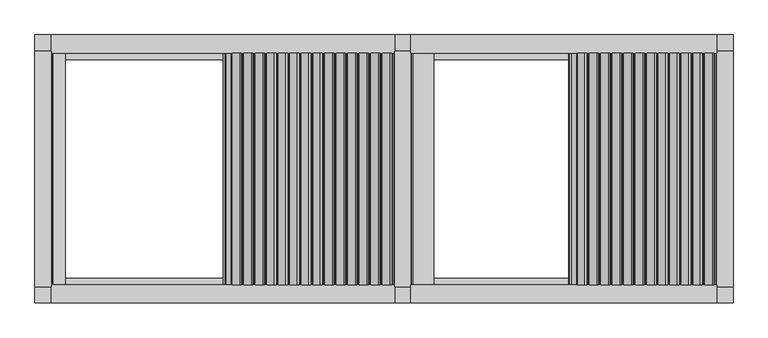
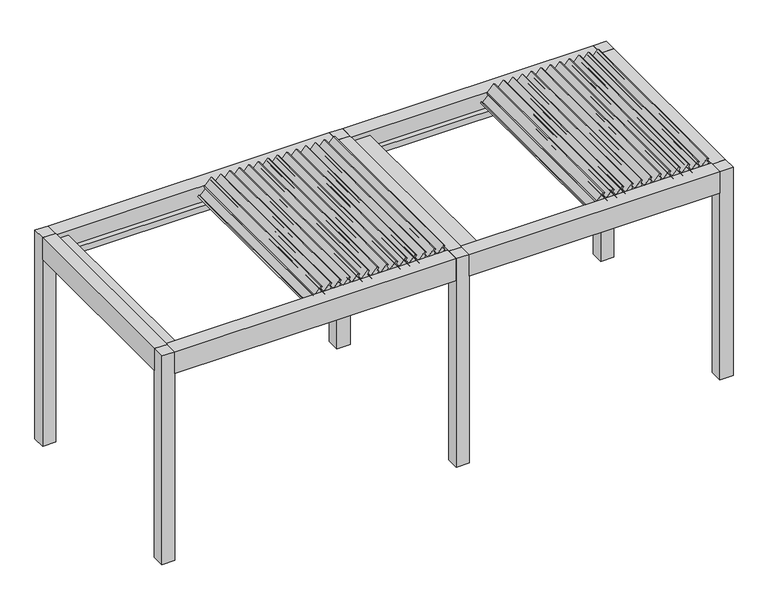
"""IFC4 building model written with IfcOpenShell, lengths in millimetres: proxy geometry, Renson_Camargue_Skye_Freestanding_Patio covers : Renson_Camargue_Skye_Freestanding_Patio covers."""

from ifc_helpers import new_model, si_unit, point, frame, frame_2d, origin, origin_with_axes, place, context, project, spatial, polyline, circle_curve, trimmed, segment, composite_curve, outline, extrude, source, transform, mapped, element, save


def generic_models_a6fa8a10(model_context):
    return source(origin(), model_context, "Body", "SweptSolid", [
        extrude(outline(composite_curve([segment(polyline([(2532.0835122, 4460.9227633), (2553.3547618, 4443.0740656), (2574.7237457, 4462.484284), (2586.077577, 4446.2693325), (2504.561844, 4372.2256538)]), True, "CONTINUOUS"), segment(trimmed(circle_curve(frame_2d((2494.4763419, 4383.3289257)), 15.0), [point((2504.561844, 4372.2256538))], [point((2485.8726953, 4371.0416451))], False, "CARTESIAN"), True, "CONTINUOUS"), segment(polyline([(2485.8726953, 4371.0416451), (2469.8777579, 4382.2414209), (2407.8391957, 4320.2028587), (2417.7863257, 4305.9968847), (2406.4649975, 4295.7133141), (2384.9376513, 4313.7769023), (2532.0835122, 4460.9227633)]), True, "CONTINUOUS")], self_intersect=False)), frame((0.0, -1080.0, 0.0), z_axis=(0.0, 1.0, 0.0), x_axis=(0.0, 0.0, 1.0)), (0.0, 0.0, 1.0), 2160.0),
        extrude(outline(composite_curve([segment(polyline([(2532.0835122, 4353.4070472), (2553.3547618, 4335.5583495), (2574.7237457, 4354.9685679), (2586.077577, 4338.7536164), (2504.561844, 4264.7099378)]), True, "CONTINUOUS"), segment(trimmed(circle_curve(frame_2d((2494.4763419, 4275.8132097)), 15.0), [point((2504.561844, 4264.7099378))], [point((2485.8726953, 4263.525929))], False, "CARTESIAN"), True, "CONTINUOUS"), segment(polyline([(2485.8726953, 4263.525929), (2469.8777579, 4274.7257048), (2407.8391957, 4212.6871426), (2417.7863257, 4198.4811686), (2406.4649975, 4188.1975981), (2384.9376513, 4206.2611863), (2532.0835122, 4353.4070472)]), True, "CONTINUOUS")], self_intersect=False)), frame((0.0, -1080.0, 0.0), z_axis=(0.0, 1.0, 0.0), x_axis=(0.0, 0.0, 1.0)), (0.0, 0.0, 1.0), 2160.0),
        extrude(outline(composite_curve([segment(polyline([(2532.0835122, 4245.8913312), (2553.3547618, 4228.0426335), (2574.7237457, 4247.4528519), (2586.077577, 4231.2379004), (2504.561844, 4157.1942217)]), True, "CONTINUOUS"), segment(trimmed(circle_curve(frame_2d((2494.4763419, 4168.2974936)), 15.0), [point((2504.561844, 4157.1942217))], [point((2485.8726953, 4156.010213))], False, "CARTESIAN"), True, "CONTINUOUS"), segment(polyline([(2485.8726953, 4156.010213), (2469.8777579, 4167.2099888), (2407.8391957, 4105.1714266), (2417.7863257, 4090.9654526), (2406.4649975, 4080.681882), (2384.9376513, 4098.7454702), (2532.0835122, 4245.8913312)]), True, "CONTINUOUS")], self_intersect=False)), frame((0.0, -1080.0, 0.0), z_axis=(0.0, 1.0, 0.0), x_axis=(0.0, 0.0, 1.0)), (0.0, 0.0, 1.0), 2160.0),
        extrude(outline(composite_curve([segment(polyline([(2532.0835122, 4138.3756151), (2553.3547618, 4120.5269175), (2574.7237457, 4139.9371358), (2586.077577, 4123.7221843), (2504.561844, 4049.6785057)]), True, "CONTINUOUS"), segment(trimmed(circle_curve(frame_2d((2494.4763419, 4060.7817776)), 15.0), [point((2504.561844, 4049.6785057))], [point((2485.8726953, 4048.4944969))], False, "CARTESIAN"), True, "CONTINUOUS"), segment(polyline([(2485.8726953, 4048.4944969), (2469.8777579, 4059.6942727), (2407.8391957, 3997.6557105), (2417.7863257, 3983.4497365), (2406.4649975, 3973.166166), (2384.9376513, 3991.2297542), (2532.0835122, 4138.3756151)]), True, "CONTINUOUS")], self_intersect=False)), frame((0.0, -1080.0, 0.0), z_axis=(0.0, 1.0, 0.0), x_axis=(0.0, 0.0, 1.0)), (0.0, 0.0, 1.0), 2160.0),
        extrude(outline(composite_curve([segment(polyline([(2532.0835122, 4030.8598991), (2553.3547618, 4013.0112014), (2574.7237457, 4032.4214198), (2586.077577, 4016.2064683), (2504.561844, 3942.1627896)]), True, "CONTINUOUS"), segment(trimmed(circle_curve(frame_2d((2494.4763419, 3953.2660616)), 15.0), [point((2504.561844, 3942.1627896))], [point((2485.8726953, 3940.9787809))], False, "CARTESIAN"), True, "CONTINUOUS"), segment(polyline([(2485.8726953, 3940.9787809), (2469.8777579, 3952.1785567), (2407.8391957, 3890.1399945), (2417.7863257, 3875.9340205), (2406.4649975, 3865.6504499), (2384.9376513, 3883.7140382), (2532.0835122, 4030.8598991)]), True, "CONTINUOUS")], self_intersect=False)), frame((0.0, -1080.0, 0.0), z_axis=(0.0, 1.0, 0.0), x_axis=(0.0, 0.0, 1.0)), (0.0, 0.0, 1.0), 2160.0),
        extrude(outline(composite_curve([segment(polyline([(2532.0835122, 3923.344183), (2553.3547618, 3905.4954854), (2574.7237457, 3924.9057037), (2586.077577, 3908.6907522), (2504.561844, 3834.6470736)]), True, "CONTINUOUS"), segment(trimmed(circle_curve(frame_2d((2494.4763419, 3845.7503455)), 15.0), [point((2504.561844, 3834.6470736))], [point((2485.8726953, 3833.4630648))], False, "CARTESIAN"), True, "CONTINUOUS"), segment(polyline([(2485.8726953, 3833.4630648), (2469.8777579, 3844.6628406), (2407.8391957, 3782.6242784), (2417.7863257, 3768.4183045), (2406.4649975, 3758.1347339), (2384.9376513, 3776.1983221), (2532.0835122, 3923.344183)]), True, "CONTINUOUS")], self_intersect=False)), frame((0.0, -1080.0, 0.0), z_axis=(0.0, 1.0, 0.0), x_axis=(0.0, 0.0, 1.0)), (0.0, 0.0, 1.0), 2160.0),
        extrude(outline(composite_curve([segment(polyline([(2532.0835122, 3815.828467), (2553.3547618, 3797.9797693), (2574.7237457, 3817.3899877), (2586.077577, 3801.1750362), (2504.561844, 3727.1313575)]), True, "CONTINUOUS"), segment(trimmed(circle_curve(frame_2d((2494.4763419, 3738.2346295)), 15.0), [point((2504.561844, 3727.1313575))], [point((2485.8726953, 3725.9473488))], False, "CARTESIAN"), True, "CONTINUOUS"), segment(polyline([(2485.8726953, 3725.9473488), (2469.8777579, 3737.1471246), (2407.8391957, 3675.1085624), (2417.7863257, 3660.9025884), (2406.4649975, 3650.6190178), (2384.9376513, 3668.6826061), (2532.0835122, 3815.828467)]), True, "CONTINUOUS")], self_intersect=False)), frame((0.0, -1080.0, 0.0), z_axis=(0.0, 1.0, 0.0), x_axis=(0.0, 0.0, 1.0)), (0.0, 0.0, 1.0), 2160.0),
        extrude(outline(composite_curve([segment(polyline([(2532.0835122, 3708.3127509), (2553.3547618, 3690.4640533), (2574.7237457, 3709.8742716), (2586.077577, 3693.6593201), (2504.561844, 3619.6156415)]), True, "CONTINUOUS"), segment(trimmed(circle_curve(frame_2d((2494.4763419, 3630.7189134)), 15.0), [point((2504.561844, 3619.6156415))], [point((2485.8726953, 3618.4316327))], False, "CARTESIAN"), True, "CONTINUOUS"), segment(polyline([(2485.8726953, 3618.4316327), (2469.8777579, 3629.6314085), (2407.8391957, 3567.5928464), (2417.7863257, 3553.3868724), (2406.4649975, 3543.1033018), (2384.9376513, 3561.16689), (2532.0835122, 3708.3127509)]), True, "CONTINUOUS")], self_intersect=False)), frame((0.0, -1080.0, 0.0), z_axis=(0.0, 1.0, 0.0), x_axis=(0.0, 0.0, 1.0)), (0.0, 0.0, 1.0), 2160.0),
        extrude(outline(composite_curve([segment(polyline([(2532.0835122, 3600.7970349), (2553.3547618, 3582.9483372), (2574.7237457, 3602.3585556), (2586.077577, 3586.1436041), (2504.561844, 3512.0999255)]), True, "CONTINUOUS"), segment(trimmed(circle_curve(frame_2d((2494.4763419, 3523.2031974)), 15.0), [point((2504.561844, 3512.0999255))], [point((2485.8726953, 3510.9159167))], False, "CARTESIAN"), True, "CONTINUOUS"), segment(polyline([(2485.8726953, 3510.9159167), (2469.8777579, 3522.1156925), (2407.8391957, 3460.0771303), (2417.7863257, 3445.8711563), (2406.4649975, 3435.5875858), (2384.9376513, 3453.651174), (2532.0835122, 3600.7970349)]), True, "CONTINUOUS")], self_intersect=False)), frame((0.0, -1080.0, 0.0), z_axis=(0.0, 1.0, 0.0), x_axis=(0.0, 0.0, 1.0)), (0.0, 0.0, 1.0), 2160.0),
        extrude(outline(composite_curve([segment(polyline([(2532.0835122, 3493.2813188), (2553.3547618, 3475.4326212), (2574.7237457, 3494.8428395), (2586.077577, 3478.627888), (2504.561844, 3404.5842094)]), True, "CONTINUOUS"), segment(trimmed(circle_curve(frame_2d((2494.4763419, 3415.6874813)), 15.0), [point((2504.561844, 3404.5842094))], [point((2485.8726953, 3403.4002007))], False, "CARTESIAN"), True, "CONTINUOUS"), segment(polyline([(2485.8726953, 3403.4002007), (2469.8777579, 3414.5999764), (2407.8391957, 3352.5614143), (2417.7863257, 3338.3554403), (2406.4649975, 3328.0718697), (2384.9376513, 3346.1354579), (2532.0835122, 3493.2813188)]), True, "CONTINUOUS")], self_intersect=False)), frame((0.0, -1080.0, 0.0), z_axis=(0.0, 1.0, 0.0), x_axis=(0.0, 0.0, 1.0)), (0.0, 0.0, 1.0), 2160.0),
        extrude(outline(composite_curve([segment(polyline([(2532.0835122, 4568.4384793), (2553.3547618, 4550.5897816), (2574.7237457, 4570.0), (2586.077577, 4553.7850485), (2504.561844, 4479.7413699)]), True, "CONTINUOUS"), segment(trimmed(circle_curve(frame_2d((2494.4763419, 4490.8446418)), 15.0), [point((2504.561844, 4479.7413699))], [point((2485.8726953, 4478.5573611))], False, "CARTESIAN"), True, "CONTINUOUS"), segment(polyline([(2485.8726953, 4478.5573611), (2469.8777579, 4489.7571369), (2407.8391957, 4427.7185747), (2417.7863257, 4413.5126007), (2406.4649975, 4403.2290302), (2384.9376513, 4421.2926184), (2532.0835122, 4568.4384793)]), True, "CONTINUOUS")], self_intersect=False)), frame((0.0, -1080.0, 0.0), z_axis=(0.0, 1.0, 0.0), x_axis=(0.0, 0.0, 1.0)), (0.0, 0.0, 1.0), 2160.0),
        extrude(outline(composite_curve([segment(polyline([(2532.0835122, 3385.7656028), (2553.3547618, 3367.9169051), (2574.7237457, 3387.3271235), (2586.077577, 3371.112172), (2504.561844, 3297.0684934)]), True, "CONTINUOUS"), segment(trimmed(circle_curve(frame_2d((2494.4763419, 3308.1717653)), 15.0), [point((2504.561844, 3297.0684934))], [point((2485.8726953, 3295.8844846))], False, "CARTESIAN"), True, "CONTINUOUS"), segment(polyline([(2485.8726953, 3295.8844846), (2469.8777579, 3307.0842604), (2407.8391957, 3245.0456982), (2417.7863257, 3230.8397242), (2406.4649975, 3220.5561537), (2384.9376513, 3238.6197419), (2532.0835122, 3385.7656028)]), True, "CONTINUOUS")], self_intersect=False)), frame((0.0, -1080.0, 0.0), z_axis=(0.0, 1.0, 0.0), x_axis=(0.0, 0.0, 1.0)), (0.0, 0.0, 1.0), 2160.0),
        extrude(outline(composite_curve([segment(polyline([(2532.0835122, 1460.9251811), (2553.3547618, 1443.0764834), (2574.7237457, 1462.4867018), (2586.077577, 1446.2717503), (2504.561844, 1372.2280717)]), True, "CONTINUOUS"), segment(trimmed(circle_curve(frame_2d((2494.4763419, 1383.3313436)), 15.0), [point((2504.561844, 1372.2280717))], [point((2485.8726953, 1371.0440629))], False, "CARTESIAN"), True, "CONTINUOUS"), segment(polyline([(2485.8726953, 1371.0440629), (2469.8777579, 1382.2438387), (2407.8391957, 1320.2052765), (2417.7863257, 1305.9993025), (2406.4649975, 1295.715732), (2384.9376513, 1313.7793202), (2532.0835122, 1460.9251811)]), True, "CONTINUOUS")], self_intersect=False)), frame((0.0, -1080.0, 0.0), z_axis=(0.0, 1.0, 0.0), x_axis=(0.0, 0.0, 1.0)), (0.0, 0.0, 1.0), 2160.0),
        extrude(outline(composite_curve([segment(polyline([(2532.0835122, 1353.4118829), (2553.3547618, 1335.5631853), (2574.7237457, 1354.9734036), (2586.077577, 1338.7584521), (2504.561844, 1264.7147735)]), True, "CONTINUOUS"), segment(trimmed(circle_curve(frame_2d((2494.4763419, 1275.8180454)), 15.0), [point((2504.561844, 1264.7147735))], [point((2485.8726953, 1263.5307647))], False, "CARTESIAN"), True, "CONTINUOUS"), segment(polyline([(2485.8726953, 1263.5307647), (2469.8777579, 1274.7305405), (2407.8391957, 1212.6919783), (2417.7863257, 1198.4860043), (2406.4649975, 1188.2024338), (2384.9376513, 1206.266022), (2532.0835122, 1353.4118829)]), True, "CONTINUOUS")], self_intersect=False)), frame((0.0, -1080.0, 0.0), z_axis=(0.0, 1.0, 0.0), x_axis=(0.0, 0.0, 1.0)), (0.0, 0.0, 1.0), 2160.0),
        extrude(outline(composite_curve([segment(polyline([(2532.0835122, 1245.8985847), (2553.3547618, 1228.0498871), (2574.7237457, 1247.4601054), (2586.077577, 1231.2451539), (2504.561844, 1157.2014753)]), True, "CONTINUOUS"), segment(trimmed(circle_curve(frame_2d((2494.4763419, 1168.3047472)), 15.0), [point((2504.561844, 1157.2014753))], [point((2485.8726953, 1156.0174665))], False, "CARTESIAN"), True, "CONTINUOUS"), segment(polyline([(2485.8726953, 1156.0174665), (2469.8777579, 1167.2172423), (2407.8391957, 1105.1786801), (2417.7863257, 1090.9727062), (2406.4649975, 1080.6891356), (2384.9376513, 1098.7527238), (2532.0835122, 1245.8985847)]), True, "CONTINUOUS")], self_intersect=False)), frame((0.0, -1080.0, 0.0), z_axis=(0.0, 1.0, 0.0), x_axis=(0.0, 0.0, 1.0)), (0.0, 0.0, 1.0), 2160.0),
        extrude(outline(composite_curve([segment(polyline([(2532.0835122, 1138.3852865), (2553.3547618, 1120.5365889), (2574.7237457, 1139.9468072), (2586.077577, 1123.7318557), (2504.561844, 1049.6881771)]), True, "CONTINUOUS"), segment(trimmed(circle_curve(frame_2d((2494.4763419, 1060.791449)), 15.0), [point((2504.561844, 1049.6881771))], [point((2485.8726953, 1048.5041683))], False, "CARTESIAN"), True, "CONTINUOUS"), segment(polyline([(2485.8726953, 1048.5041683), (2469.8777579, 1059.7039441), (2407.8391957, 997.665382), (2417.7863257, 983.459408), (2406.4649975, 973.1758374), (2384.9376513, 991.2394256), (2532.0835122, 1138.3852865)]), True, "CONTINUOUS")], self_intersect=False)), frame((0.0, -1080.0, 0.0), z_axis=(0.0, 1.0, 0.0), x_axis=(0.0, 0.0, 1.0)), (0.0, 0.0, 1.0), 2160.0),
        extrude(outline(composite_curve([segment(polyline([(2532.0835122, 1030.8719883), (2553.3547618, 1013.0232907), (2574.7237457, 1032.433509), (2586.077577, 1016.2185575), (2504.561844, 942.1748789)]), True, "CONTINUOUS"), segment(trimmed(circle_curve(frame_2d((2494.4763419, 953.2781508)), 15.0), [point((2504.561844, 942.1748789))], [point((2485.8726953, 940.9908702))], False, "CARTESIAN"), True, "CONTINUOUS"), segment(polyline([(2485.8726953, 940.9908702), (2469.8777579, 952.1906459), (2407.8391957, 890.1520838), (2417.7863257, 875.9461098), (2406.4649975, 865.6625392), (2384.9376513, 883.7261274), (2532.0835122, 1030.8719883)]), True, "CONTINUOUS")], self_intersect=False)), frame((0.0, -1080.0, 0.0), z_axis=(0.0, 1.0, 0.0), x_axis=(0.0, 0.0, 1.0)), (0.0, 0.0, 1.0), 2160.0),
        extrude(outline(composite_curve([segment(polyline([(2532.0835122, 923.3586901), (2553.3547618, 905.5099925), (2574.7237457, 924.9202108), (2586.077577, 908.7052594), (2504.561844, 834.6615807)]), True, "CONTINUOUS"), segment(trimmed(circle_curve(frame_2d((2494.4763419, 845.7648526)), 15.0), [point((2504.561844, 834.6615807))], [point((2485.8726953, 833.477572))], False, "CARTESIAN"), True, "CONTINUOUS"), segment(polyline([(2485.8726953, 833.477572), (2469.8777579, 844.6773478), (2407.8391957, 782.6387856), (2417.7863257, 768.4328116), (2406.4649975, 758.149241), (2384.9376513, 776.2128292), (2532.0835122, 923.3586901)]), True, "CONTINUOUS")], self_intersect=False)), frame((0.0, -1080.0, 0.0), z_axis=(0.0, 1.0, 0.0), x_axis=(0.0, 0.0, 1.0)), (0.0, 0.0, 1.0), 2160.0),
        extrude(outline(composite_curve([segment(polyline([(2532.0835122, 815.845392), (2553.3547618, 797.9966943), (2574.7237457, 817.4069127), (2586.077577, 801.1919612), (2504.561844, 727.1482825)]), True, "CONTINUOUS"), segment(trimmed(circle_curve(frame_2d((2494.4763419, 738.2515544)), 15.0), [point((2504.561844, 727.1482825))], [point((2485.8726953, 725.9642738))], False, "CARTESIAN"), True, "CONTINUOUS"), segment(polyline([(2485.8726953, 725.9642738), (2469.8777579, 737.1640496), (2407.8391957, 675.1254874), (2417.7863257, 660.9195134), (2406.4649975, 650.6359428), (2384.9376513, 668.699531), (2532.0835122, 815.845392)]), True, "CONTINUOUS")], self_intersect=False)), frame((0.0, -1080.0, 0.0), z_axis=(0.0, 1.0, 0.0), x_axis=(0.0, 0.0, 1.0)), (0.0, 0.0, 1.0), 2160.0),
        extrude(outline(composite_curve([segment(polyline([(2532.0835122, 708.3320938), (2553.3547618, 690.4833961), (2574.7237457, 709.8936145), (2586.077577, 693.678663), (2504.561844, 619.6349843)]), True, "CONTINUOUS"), segment(trimmed(circle_curve(frame_2d((2494.4763419, 630.7382562)), 15.0), [point((2504.561844, 619.6349843))], [point((2485.8726953, 618.4509756))], False, "CARTESIAN"), True, "CONTINUOUS"), segment(polyline([(2485.8726953, 618.4509756), (2469.8777579, 629.6507514), (2407.8391957, 567.6121892), (2417.7863257, 553.4062152), (2406.4649975, 543.1226446), (2384.9376513, 561.1862328), (2532.0835122, 708.3320938)]), True, "CONTINUOUS")], self_intersect=False)), frame((0.0, -1080.0, 0.0), z_axis=(0.0, 1.0, 0.0), x_axis=(0.0, 0.0, 1.0)), (0.0, 0.0, 1.0), 2160.0),
        extrude(outline(composite_curve([segment(polyline([(2532.0835122, 600.8187956), (2553.3547618, 582.9700979), (2574.7237457, 602.3803163), (2586.077577, 586.1653648), (2504.561844, 512.1216861)]), True, "CONTINUOUS"), segment(trimmed(circle_curve(frame_2d((2494.4763419, 523.224958)), 15.0), [point((2504.561844, 512.1216861))], [point((2485.8726953, 510.9376774))], False, "CARTESIAN"), True, "CONTINUOUS"), segment(polyline([(2485.8726953, 510.9376774), (2469.8777579, 522.1374532), (2407.8391957, 460.098891), (2417.7863257, 445.892917), (2406.4649975, 435.6093464), (2384.9376513, 453.6729346), (2532.0835122, 600.8187956)]), True, "CONTINUOUS")], self_intersect=False)), frame((0.0, -1080.0, 0.0), z_axis=(0.0, 1.0, 0.0), x_axis=(0.0, 0.0, 1.0)), (0.0, 0.0, 1.0), 2160.0),
        extrude(outline(composite_curve([segment(polyline([(2532.0835122, 493.3054974), (2553.3547618, 475.4567997), (2574.7237457, 494.8670181), (2586.077577, 478.6520666), (2504.561844, 404.6083879)]), True, "CONTINUOUS"), segment(trimmed(circle_curve(frame_2d((2494.4763419, 415.7116599)), 15.0), [point((2504.561844, 404.6083879))], [point((2485.8726953, 403.4243792))], False, "CARTESIAN"), True, "CONTINUOUS"), segment(polyline([(2485.8726953, 403.4243792), (2469.8777579, 414.624155), (2407.8391957, 352.5855928), (2417.7863257, 338.3796188), (2406.4649975, 328.0960482), (2384.9376513, 346.1596365), (2532.0835122, 493.3054974)]), True, "CONTINUOUS")], self_intersect=False)), frame((0.0, -1080.0, 0.0), z_axis=(0.0, 1.0, 0.0), x_axis=(0.0, 0.0, 1.0)), (0.0, 0.0, 1.0), 2160.0),
        extrude(outline(composite_curve([segment(polyline([(2532.0835122, 385.7921992), (2553.3547618, 367.9435015), (2574.7237457, 387.3537199), (2586.077577, 371.1387684), (2504.561844, 297.0950897)]), True, "CONTINUOUS"), segment(trimmed(circle_curve(frame_2d((2494.4763419, 308.1983617)), 15.0), [point((2504.561844, 297.0950897))], [point((2485.8726953, 295.911081))], False, "CARTESIAN"), True, "CONTINUOUS"), segment(polyline([(2485.8726953, 295.911081), (2469.8777579, 307.1108568), (2407.8391957, 245.0722946), (2417.7863257, 230.8663206), (2406.4649975, 220.58275), (2384.9376513, 238.6463383), (2532.0835122, 385.7921992)]), True, "CONTINUOUS")], self_intersect=False)), frame((0.0, -1080.0, 0.0), z_axis=(0.0, 1.0, 0.0), x_axis=(0.0, 0.0, 1.0)), (0.0, 0.0, 1.0), 2160.0),
        extrude(outline(composite_curve([segment(polyline([(2532.0835122, 278.278901), (2553.3547618, 260.4302033), (2574.7237457, 279.8404217), (2586.077577, 263.6254702), (2504.561844, 189.5817916)]), True, "CONTINUOUS"), segment(trimmed(circle_curve(frame_2d((2494.4763419, 200.6850635)), 15.0), [point((2504.561844, 189.5817916))], [point((2485.8726953, 188.3977828))], False, "CARTESIAN"), True, "CONTINUOUS"), segment(polyline([(2485.8726953, 188.3977828), (2469.8777579, 199.5975586), (2407.8391957, 137.5589964), (2417.7863257, 123.3530224), (2406.4649975, 113.0694519), (2384.9376513, 131.1330401), (2532.0835122, 278.278901)]), True, "CONTINUOUS")], self_intersect=False)), frame((0.0, -1080.0, 0.0), z_axis=(0.0, 1.0, 0.0), x_axis=(0.0, 0.0, 1.0)), (0.0, 0.0, 1.0), 2160.0),
        extrude(outline(composite_curve([segment(polyline([(2532.0835122, 1568.4384793), (2553.3547618, 1550.5897816), (2574.7237457, 1570.0), (2586.077577, 1553.7850485), (2504.561844, 1479.7413699)]), True, "CONTINUOUS"), segment(trimmed(circle_curve(frame_2d((2494.4763419, 1490.8446418)), 15.0), [point((2504.561844, 1479.7413699))], [point((2485.8726953, 1478.5573611))], False, "CARTESIAN"), True, "CONTINUOUS"), segment(polyline([(2485.8726953, 1478.5573611), (2469.8777579, 1489.7571369), (2407.8391957, 1427.7185747), (2417.7863257, 1413.5126007), (2406.4649975, 1403.2290302), (2384.9376513, 1421.2926184), (2532.0835122, 1568.4384793)]), True, "CONTINUOUS")], self_intersect=False)), frame((0.0, -1080.0, 0.0), z_axis=(0.0, 1.0, 0.0), x_axis=(0.0, 0.0, 1.0)), (0.0, 0.0, 1.0), 2160.0),
        extrude(outline(composite_curve([segment(polyline([(2532.0835122, 170.7656028), (2553.3547618, 152.9169051), (2574.7237457, 172.3271235), (2586.077577, 156.112172), (2504.561844, 82.0684934)]), True, "CONTINUOUS"), segment(trimmed(circle_curve(frame_2d((2494.4763419, 93.1717653)), 15.0), [point((2504.561844, 82.0684934))], [point((2485.8726953, 80.8844846))], False, "CARTESIAN"), True, "CONTINUOUS"), segment(polyline([(2485.8726953, 80.8844846), (2469.8777579, 92.0842604), (2407.8391957, 30.0456982), (2417.7863257, 15.8397242), (2406.4649975, 5.5561537), (2384.9376513, 23.6197419), (2532.0835122, 170.7656028)]), True, "CONTINUOUS")], self_intersect=False)), frame((0.0, -1080.0, 0.0), z_axis=(0.0, 1.0, 0.0), x_axis=(0.0, 0.0, 1.0)), (0.0, 0.0, 1.0), 2160.0),
        extrude(outline(polyline([(2441.6559373, 1750.0), (2441.6559373, 1960.0), (2455.6555802, 1963.7512887), (2455.6555802, 1770.4059055), (2471.400763, 1755.0), (2479.2449277, 1755.0), (2479.6823598, 1750.0), (2441.6559373, 1750.0)])), frame((0.0, -1100.0, 0.0), z_axis=(0.0, 1.0, 0.0), x_axis=(0.0, 0.0, 1.0)), (0.0, 0.0, 1.0), 2200.0),
        extrude(outline(polyline([(-1080.0, 2510.0), (-1080.0, 2322.0), (-1020.0, 2322.0), (-1020.0, 2250.0), (-1250.0, 2250.0), (-1250.0, 2510.0), (-1080.0, 2510.0)])), frame((1750.0, 0.0, 0.0), z_axis=(1.0, 0.0, 0.0), x_axis=(0.0, 1.0, 0.0)), (0.0, 0.0, 1.0), 2850.0),
        extrude(outline(polyline([(1250.0, 2250.0), (1020.0, 2250.0), (1020.0, 2322.0), (1080.0, 2322.0), (1080.0, 2510.0), (1250.0, 2510.0), (1250.0, 2250.0)])), frame((1750.0, 0.0, 0.0), z_axis=(1.0, 0.0, 0.0), x_axis=(0.0, 1.0, 0.0)), (0.0, 0.0, 1.0), 2850.0),
        extrude(outline(polyline([(2510.0, 4750.0), (2510.0, 4600.0), (2479.6823598, 4600.0), (2479.2449277, 4595.0), (2471.400763, 4595.0), (2455.6555802, 4579.2544156), (2455.6555802, 4569.9090324), (2441.6559373, 4573.6603211), (2441.6559373, 4600.0), (2250.0, 4600.0), (2250.0, 4750.0), (2510.0, 4750.0)])), frame((0.0, -1100.0, 0.0), z_axis=(0.0, 1.0, 0.0), x_axis=(0.0, 0.0, 1.0)), (0.0, 0.0, 1.0), 2200.0),
        extrude(outline(polyline([(4750.0, 1100.0), (4600.0, 1100.0), (4600.0, 1250.0), (4750.0, 1250.0), (4750.0, 1100.0)])), origin_with_axes(), (0.0, 0.0, 1.0), 2510.0),
        extrude(outline(polyline([(4750.0, -1100.0), (4750.0, -1250.0), (4600.0, -1250.0), (4600.0, -1100.0), (4750.0, -1100.0)])), origin_with_axes(), (0.0, 0.0, 1.0), 2510.0),
        extrude(outline(polyline([(2441.6559373, -1600.0), (2441.6559373, -1470.0), (2455.6555802, -1466.2487113), (2455.6555802, -1579.5940945), (2471.400763, -1595.0), (2479.2449277, -1595.0), (2479.6823598, -1600.0), (2441.6559373, -1600.0)])), frame((0.0, -1100.0, 0.0), z_axis=(0.0, 1.0, 0.0), x_axis=(0.0, 0.0, 1.0)), (0.0, 0.0, 1.0), 2200.0),
        extrude(outline(polyline([(-1600.0, -1100.0), (-1750.0, -1100.0), (-1750.0, 1100.0), (-1600.0, 1100.0), (-1600.0, -1100.0)])), frame((0.0, 0.0, 2250.0), z_axis=(0.0, 0.0, 1.0), x_axis=(1.0, 0.0, 0.0)), (0.0, 0.0, 1.0), 260.0),
        extrude(outline(polyline([(2510.0, 1750.0), (2510.0, 1600.0), (2479.6904658, 1600.0), (2479.2449277, 1595.0), (2471.400763, 1595.0), (2455.6555802, 1579.2544156), (2455.6555802, 1569.9090324), (2441.6559373, 1573.6603211), (2441.6559373, 1600.0), (2250.0, 1600.0), (2250.0, 1750.0), (2510.0, 1750.0)])), frame((0.0, -1100.0, 0.0), z_axis=(0.0, 1.0, 0.0), x_axis=(0.0, 0.0, 1.0)), (0.0, 0.0, 1.0), 2200.0),
        extrude(outline(polyline([(-1080.0, 2510.0), (-1080.0, 2322.0), (-1020.0, 2322.0), (-1020.0, 2250.0), (-1250.0, 2250.0), (-1250.0, 2510.0), (-1080.0, 2510.0)])), frame((-1600.0, 0.0, 0.0), z_axis=(1.0, 0.0, 0.0), x_axis=(0.0, 1.0, 0.0)), (0.0, 0.0, 1.0), 3200.0),
        extrude(outline(polyline([(1250.0, 2250.0), (1020.0, 2250.0), (1020.0, 2322.0), (1080.0, 2322.0), (1080.0, 2510.0), (1250.0, 2510.0), (1250.0, 2250.0)])), frame((-1600.0, 0.0, 0.0), z_axis=(1.0, 0.0, 0.0), x_axis=(0.0, 1.0, 0.0)), (0.0, 0.0, 1.0), 3200.0),
        extrude(outline(polyline([(-1600.0, 1250.0), (-1600.0, 1100.0), (-1750.0, 1100.0), (-1750.0, 1250.0), (-1600.0, 1250.0)])), origin_with_axes(), (0.0, 0.0, 1.0), 2510.0),
        extrude(outline(polyline([(1750.0, 1250.0), (1750.0, 1100.0), (1600.0, 1100.0), (1600.0, 1250.0), (1750.0, 1250.0)])), origin_with_axes(), (0.0, 0.0, 1.0), 2510.0),
        extrude(outline(polyline([(1750.0, -1100.0), (1750.0, -1250.0), (1600.0, -1250.0), (1600.0, -1100.0), (1750.0, -1100.0)])), origin_with_axes(), (0.0, 0.0, 1.0), 2510.0),
        extrude(outline(polyline([(-1600.0, -1100.0), (-1600.0, -1250.0), (-1750.0, -1250.0), (-1750.0, -1100.0), (-1600.0, -1100.0)])), origin_with_axes(), (0.0, 0.0, 1.0), 2510.0),
    ])


if __name__ == "__main__":
    model = new_model("IFC4")
    model_context = context("Model", 3, world=origin())
    ifc_project = project(units=[si_unit("LENGTHUNIT", "METRE", prefix="MILLI")], contexts=[model_context])
    site = spatial("IfcSite", under=ifc_project)
    building = spatial("IfcBuilding", under=site)
    placement = place(None, origin())
    generic_models_shape = generic_models_a6fa8a10(model_context)
    element("IfcBuildingElementProxy", 1, Name="Renson_Camargue_Skye_Freestanding_Patio covers : Renson_Camargue_Skye_Freestanding_Patio covers", ObjectType="Renson_Camargue_Skye_Freestanding_Patio covers : Renson_Camargue_Skye_Freestanding_Patio covers", at=placement, inside=building, context=model_context, shape_type="MappedRepresentation", body=[
        mapped(generic_models_shape, transform((0.0, 0.0, 0.0), x_axis=(1.0, 0.0, 0.0), y_axis=(0.0, 1.0, 0.0), z_axis=(0.0, 0.0, 1.0))),
    ])
    save(model, "model.ifc")
